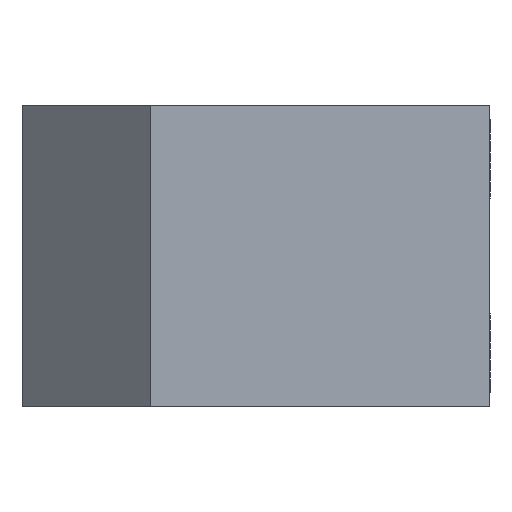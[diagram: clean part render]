
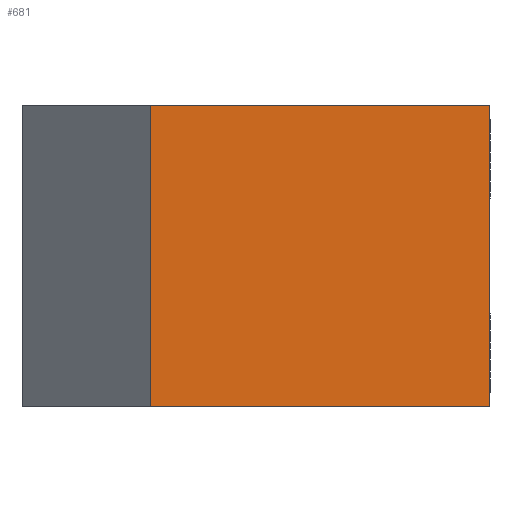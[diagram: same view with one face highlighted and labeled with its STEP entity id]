
A CAD part, left-side view. The second image highlights one B-rep face of the part: STEP entity #681.
In plain terms, the highlighted planar face has unit normal (-1, 0, 0).
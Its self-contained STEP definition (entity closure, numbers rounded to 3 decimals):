
#55 = VECTOR ( 'NONE', #1363, 1000. ) ;
#110 = LINE ( 'NONE', #739, #55 ) ;
#122 = PLANE ( 'NONE',  #437 ) ;
#265 = LINE ( 'NONE', #897, #1225 ) ;
#302 = VECTOR ( 'NONE', #397, 1000. ) ;
#310 = EDGE_CURVE ( 'NONE', #497, #2011, #1198, .T. ) ;
#376 = EDGE_CURVE ( 'NONE', #2011, #1298, #265, .T. ) ;
#397 = DIRECTION ( 'NONE',  ( 0., 0., 1. ) ) ;
#437 = AXIS2_PLACEMENT_3D ( 'NONE', #567, #1204, #1950 ) ;
#497 = VERTEX_POINT ( 'NONE', #777 ) ;
#516 = DIRECTION ( 'NONE',  ( 0., 0., 1. ) ) ;
#567 = CARTESIAN_POINT ( 'NONE',  ( -43., -31., -20. ) ) ;
#681 = ADVANCED_FACE ( 'NONE', ( #1057 ), #122, .T. ) ;
#739 = CARTESIAN_POINT ( 'NONE',  ( -43., -31., -20. ) ) ;
#777 = CARTESIAN_POINT ( 'NONE',  ( -43., 14., -20. ) ) ;
#897 = CARTESIAN_POINT ( 'NONE',  ( -43., -31., 20. ) ) ;
#1057 = FACE_OUTER_BOUND ( 'NONE', #1206, .T. ) ;
#1109 = VECTOR ( 'NONE', #516, 1000. ) ;
#1125 = CARTESIAN_POINT ( 'NONE',  ( -43., -31., -20. ) ) ;
#1137 = ORIENTED_EDGE ( 'NONE', *, *, #310, .F. ) ;
#1184 = ORIENTED_EDGE ( 'NONE', *, *, #1999, .T. ) ;
#1198 = LINE ( 'NONE', #1633, #302 ) ;
#1204 = DIRECTION ( 'NONE',  ( -1., 0., 0. ) ) ;
#1206 = EDGE_LOOP ( 'NONE', ( #1137, #1184, #1702, #1687 ) ) ;
#1225 = VECTOR ( 'NONE', #1676, 1000. ) ;
#1298 = VERTEX_POINT ( 'NONE', #1920 ) ;
#1363 = DIRECTION ( 'NONE',  ( 0., -1., 0. ) ) ;
#1370 = CARTESIAN_POINT ( 'NONE',  ( -43., 14., 20. ) ) ;
#1443 = LINE ( 'NONE', #1746, #1109 ) ;
#1631 = VERTEX_POINT ( 'NONE', #1125 ) ;
#1633 = CARTESIAN_POINT ( 'NONE',  ( -43., 14., -20. ) ) ;
#1676 = DIRECTION ( 'NONE',  ( 0., -1., 0. ) ) ;
#1687 = ORIENTED_EDGE ( 'NONE', *, *, #376, .F. ) ;
#1702 = ORIENTED_EDGE ( 'NONE', *, *, #2021, .T. ) ;
#1746 = CARTESIAN_POINT ( 'NONE',  ( -43., -31., -20. ) ) ;
#1920 = CARTESIAN_POINT ( 'NONE',  ( -43., -31., 20. ) ) ;
#1950 = DIRECTION ( 'NONE',  ( 0., -1., 0. ) ) ;
#1999 = EDGE_CURVE ( 'NONE', #497, #1631, #110, .T. ) ;
#2011 = VERTEX_POINT ( 'NONE', #1370 ) ;
#2021 = EDGE_CURVE ( 'NONE', #1631, #1298, #1443, .T. ) ;
